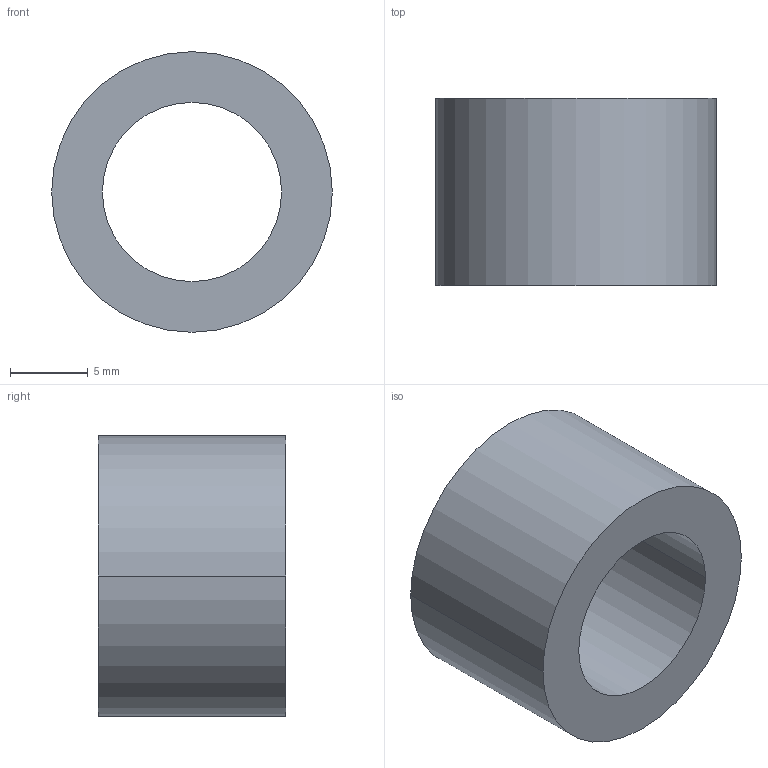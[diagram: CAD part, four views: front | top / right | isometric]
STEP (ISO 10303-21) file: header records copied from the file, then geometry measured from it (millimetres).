
FILE_DESCRIPTION (( 'STEP AP203' ), '1' );
FILE_NAME ('30800.WPP18E11.5.step', '2019-01-23T22:37:31', ( '' ), ( '' ), 'SwSTEP 2.0', 'SolidWorks 2017', '' );
FILE_SCHEMA (( 'CONFIG_CONTROL_DESIGN' ));
Length unit declared in the file: millimetre
Products named in the file (1): 30800.WPP18E11.5
Bounding box: 18 x 12 x 18 mm (x, y, z)
Volume: 1773.8 mm3; surface area: 1384.1 mm2
Topology: 1 solids, 1 shells, 8 faces, 16 edges, 10 vertices
Faces by surface type: cylinder 4, torus 2, plane 2
Entity records: 297 total; most frequent: DIRECTION 46, CARTESIAN_POINT 35, ORIENTED_EDGE 32, AXIS2_PLACEMENT_3D 21, EDGE_CURVE 16, CIRCLE 12, EDGE_LOOP 10, VERTEX_POINT 10
